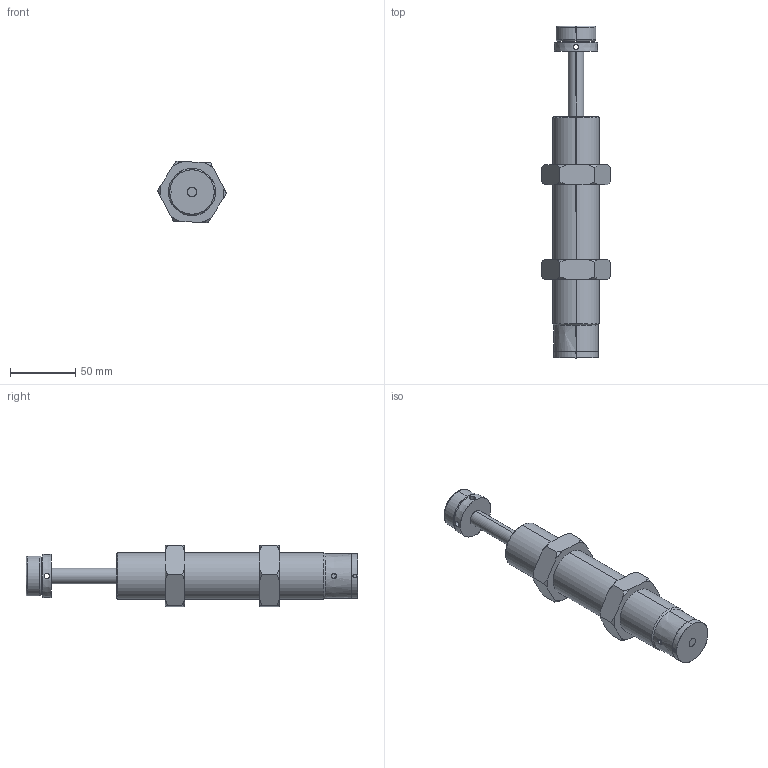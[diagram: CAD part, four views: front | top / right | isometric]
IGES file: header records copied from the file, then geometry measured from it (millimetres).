
Start section: SolidWorks IGES file using analytic representation for surfaces
Bounding box: 53.07 x 254.5 x 47.06 mm (x, y, z)
Surface area: 40282.2 mm2 (no closed solid volume)
Topology: 0 solids, 0 shells, 121 faces, 2362 edges, 2362 vertices
Faces by surface type: revolution 76, bspline 45
